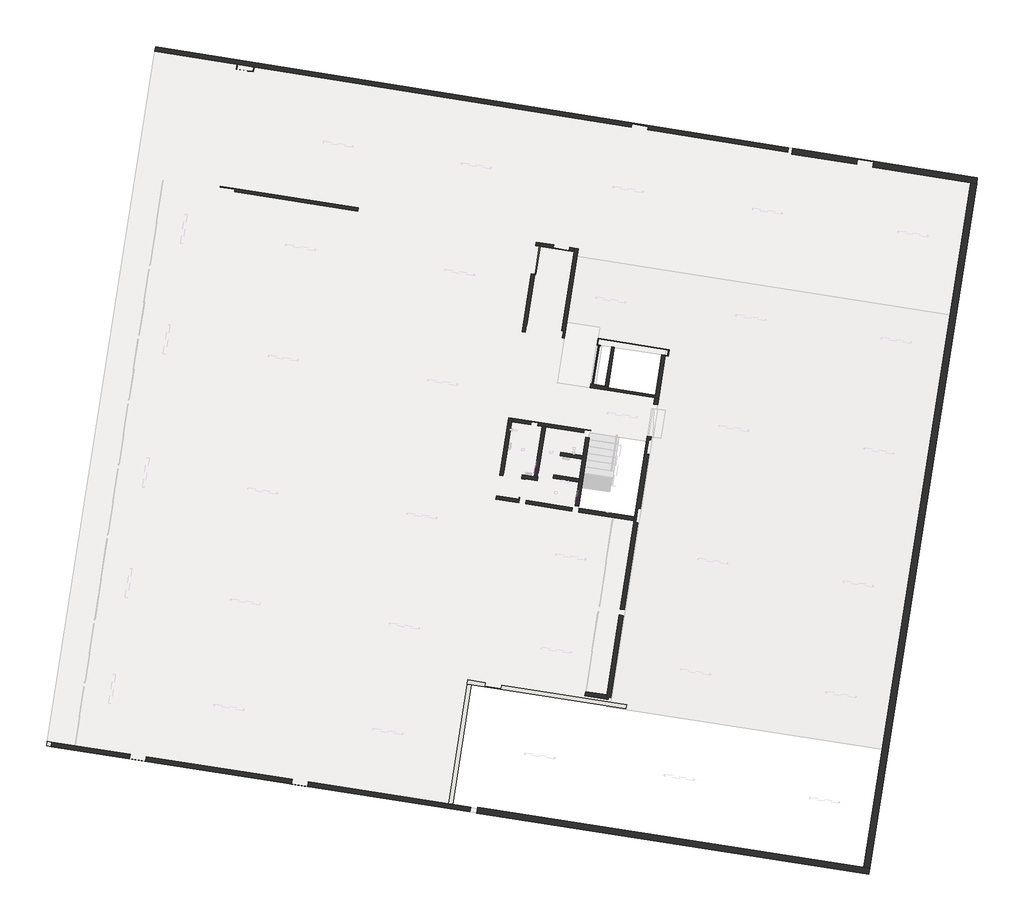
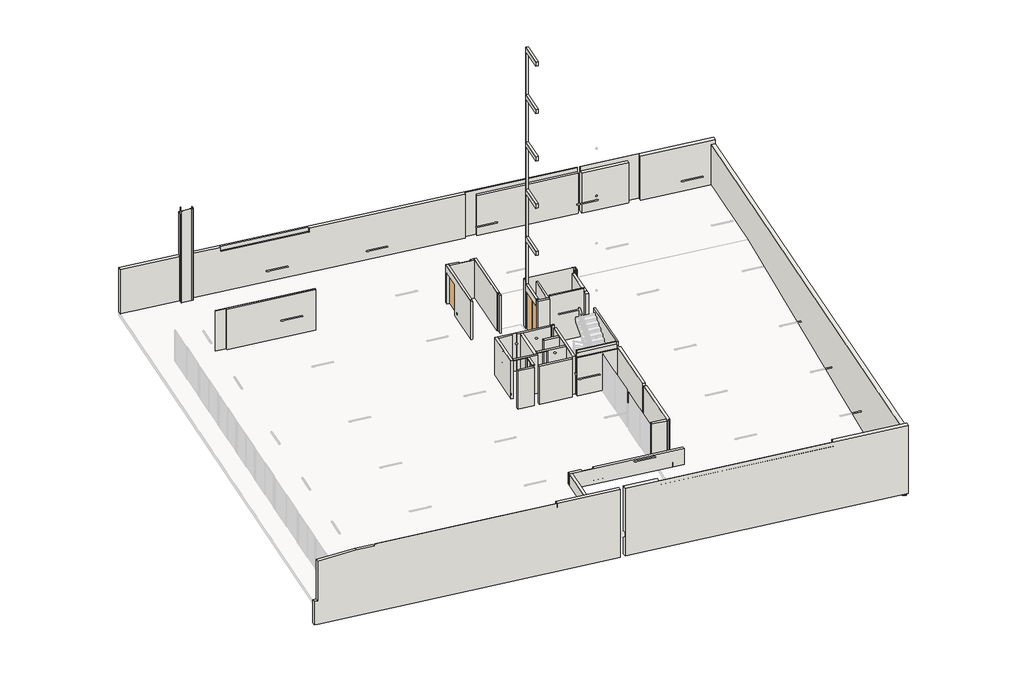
# One storey, part 1 of 3: 36 walls, 2 doors, 2 windows.
"""IFC4 building model written with IfcOpenShell, lengths in millimetres."""

from ifc_helpers import new_model, si_unit, frame, origin, place, context, project, spatial, polyline, outline, extrude, faceted_brep, transform, mapped, element, save
from components import door_714fe449, door_ddb746d0, window_199c4525

model = new_model("IFC4")

# Units and contexts
model_context = context("Model", 3, world=origin())
ifc_project = project(units=[si_unit("LENGTHUNIT", "METRE", prefix="MILLI")], contexts=[model_context])

# Site, building, storey
site = spatial("IfcSite", under=ifc_project)
building = spatial("IfcBuilding", under=site)
storey = spatial("IfcBuildingStorey", under=building, Name="SÓTANO 1", Elevation=-3000.0)

# Doors
placement = place(None, origin())
door_shape = door_714fe449(model_context)
element("IfcDoor", 1, ObjectType="PUERTA INTERIOR CORREDIZA_ESTRIAS : PUERTA INTERIOR CORREDIZA_ESTRIAS", at=placement, inside=storey, context=model_context, shape_type="MappedRepresentation", body=[
    mapped(door_shape, transform((-35279.7420149, -58680.8132557, -3000.0), x_axis=(0.15400987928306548, 0.9880693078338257, 0.0), y_axis=(-0.9880693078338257, 0.15400987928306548, 0.0), z_axis=(0.0, 0.0, 1.0))),
])
door_2_shape = door_ddb746d0(model_context)
element("IfcDoor", 2, ObjectType="Puerta Metalica-lisa_doble : Puerta Metálica lisa_doble 2", at=placement, inside=storey, context=model_context, shape_type="MappedRepresentation", body=[
    mapped(door_2_shape, transform((-32707.7435792, -63120.056435, -3000.0), x_axis=(0.15400987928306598, 0.9880693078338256, 0.0), y_axis=(-0.9880693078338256, 0.15400987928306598, 0.0), z_axis=(0.0, 0.0, 1.0))),
])

# Walls
element("IfcWall", 3, ObjectType="Muro block 12cms_int_ductos", at=placement, inside=storey, context=model_context, shape_type="Brep", body=[
    faceted_brep([(-47921.8866639, -50605.4554258, -3000.0), (-47319.1328885, -50699.3549794, -3000.0), (-47319.1328885, -50699.3549794, 3200.0), (-47921.8866639, -50605.4554258, 3200.0), (-47903.4054785, -50486.8871084, -3000.0), (-47903.4054785, -50486.8871084, 2920.0), (-47903.4054785, -50486.8871084, 3200.0), (-47883.6300228, -50489.9678132, 3200.0), (-47883.6300228, -50489.9678132, 2920.0), (-47883.6300228, -50489.9678132, -3000.0), (-47900.5620639, -50598.6568466, -3000.0), (-47317.593612, -50689.4741582, -3000.0), (-47317.593612, -50689.4741582, 3200.0), (-47900.5620639, -50598.6568466, 3200.0)], [[[0, 1, 2, 3]], [[4, 5, 6, 7, 8, 9]], [[1, 0, 4, 9, 10, 11]], [[3, 2, 12, 13, 7, 6]], [[2, 1, 11, 12]], [[0, 3, 6, 5, 4]], [[10, 13, 12, 11]], [[13, 10, 9, 8, 7]]]),
])
element("IfcWall", 4, ObjectType="Muro block 12cms_int_ductos", at=placement, inside=storey, context=model_context, shape_type="Brep", body=[
    faceted_brep([(-47200.5630339, -50717.826297, -3000.0), (-47169.0881531, -50515.784834, -3000.0), (-47169.0881531, -50515.784834, 0.0), (-47169.6887226, -50519.6399697, 0.0), (-47169.6887226, -50519.6399697, 3200.0), (-47200.5630339, -50717.826297, 3200.0), (-47319.1328885, -50699.3549794, -3000.0), (-47319.1328885, -50699.3549794, 3200.0), (-47317.593612, -50689.4741582, 3200.0), (-47317.593612, -50689.4741582, -3000.0), (-47208.9045786, -50706.4061993, -3000.0), (-47178.9631418, -50514.2081179, -3000.0), (-47179.5694157, -50518.0998709, 3200.0), (-47208.9045786, -50706.4061993, 3200.0), (-47178.9631418, -50514.2081179, 0.0), (-47179.5694157, -50518.0998709, 0.0), (-47179.5694157, -50518.0998709, 2920.0)], [[[0, 1, 2, 3, 4, 5]], [[6, 7, 8, 9]], [[1, 0, 6, 9, 10, 11]], [[5, 4, 12, 13, 8, 7]], [[0, 5, 7, 6]], [[2, 1, 11, 14]], [[4, 3, 15, 16, 12]], [[3, 2, 14, 15]], [[13, 10, 9, 8]], [[10, 13, 12, 16, 15, 14, 11]]]),
])
element("IfcWall", 5, ObjectType="Muro Contención - 20 cm", at=placement, inside=storey, context=model_context, shape_type="Brep", body=[
    faceted_brep([(-51375.8388988, -49844.1028827, 0.0), (-51375.8388988, -49844.1028827, -1805.8184233), (-51375.8388988, -49844.1028827, -2600.0), (-51375.8388988, -49844.1028827, -3000.0), (-51178.3391861, -49875.6371951, -3000.0), (-47889.968964, -50400.6834983, -3000.0), (-47870.2123516, -50403.8379899, -3000.0), (-31201.2432383, -53065.3329007, -3000.0), (-31201.2433158, -53065.3328884, 0.0), (-31220.9932045, -53062.1794703, 0.0), (-40305.9799974, -51611.6010962, 0.0), (-40325.7299686, -51608.447665, 0.0), (-40325.7299686, -51608.447665, -280.0), (-45529.8473745, -50777.5185357, -280.0), (-45529.8473745, -50777.5185357, 0.0), (-47870.2123516, -50403.8379899, 0.0), (-47889.968964, -50400.6834983, 0.0), (-24585.36884, -54121.6739331, -3000.0), (-24585.36884, -54121.6739331, -2600.0), (-24585.36884, -54121.6739331, -280.0), (-30509.9942441, -53175.7029943, -280.0), (-30509.9942441, -53175.7029943, -3000.0), (-24553.8347441, -53924.1755767, -3000.0), (-51345.0367114, -49646.4876641, -3000.0), (-51345.0367114, -49646.4876641, 0.0), (-24553.8347441, -53924.1755767, 0.0), (-24553.8347441, -53924.1755767, -2600.0), (-30487.5117328, -53031.4636799, -3000.0), (-31179.1602483, -52923.6567643, -3000.0), (-24558.8460788, -53955.5616157, 0.0), (-24558.8460788, -53955.5616157, -280.0), (-45516.0458481, -50688.9731464, 0.0), (-40308.9206175, -51500.6052071, 0.0), (-31179.1602844, -52923.6564812, 0.0), (-45516.0458481, -50688.9731464, -280.0), (-40308.9206175, -51500.6052071, -280.0), (-30487.5116906, -53031.4634089, -280.0), (-31179.1602771, -52923.6564823, -280.0)], [[[0, 1, 2, 3, 4, 5, 6, 7, 8, 9, 10, 11, 12, 13, 14, 15, 16]], [[17, 18, 19, 20, 21]], [[22, 23, 24, 25, 26]], [[23, 22, 17, 21, 27, 28, 7, 6, 5, 4, 3]], [[22, 26, 25, 29, 30, 19, 18, 17]], [[25, 24, 0, 16, 15, 14, 31, 32, 11, 10, 9, 8, 33, 29]], [[0, 24, 23, 3, 2, 1]], [[34, 13, 12, 35]], [[19, 30, 36, 20]], [[13, 34, 31, 14]], [[28, 27, 36, 30, 29, 33, 37]], [[36, 27, 21, 20]], [[34, 35, 32, 31]], [[32, 35, 12, 11]], [[28, 37, 33, 8, 7]]]),
])
element("IfcWall", 6, ObjectType="Muro Contención - 25", at=placement, inside=storey, context=model_context, shape_type="Brep", body=[
    faceted_brep([(-21111.3619643, -84430.1909695, -4580.0), (-21358.3792912, -84391.6884997, -4580.0), (-37705.9860161, -81843.5950428, -4580.0), (-37705.9860161, -81843.5950428, 0.0), (-35734.7877274, -82150.844755, 0.0), (-35734.7877274, -82150.844755, -280.0), (-25498.3895702, -83746.3871243, -280.0), (-25498.3895702, -83746.3871243, 0.0), (-21111.3619643, -84430.1909695, 0.0), (-21111.3619643, -84430.1909695, -280.0), (-37744.4884859, -82090.6123697, -4580.0), (-21149.8644341, -84677.2082965, -4580.0), (-21149.8644341, -84677.2082965, 0.0), (-37744.4884859, -82090.6123697, 0.0), (-35773.1919026, -82397.2314604, -280.0), (-25536.7937442, -83992.7738299, -280.0), (-25536.7937442, -83992.7738299, 0.0), (-35773.1919026, -82397.2314604, 0.0)], [[[0, 1, 2, 3, 4, 5, 6, 7, 8, 9]], [[10, 11, 12, 13]], [[14, 15, 6, 5]], [[15, 16, 7, 6]], [[15, 14, 17, 16]], [[17, 14, 5, 4]], [[2, 1, 0, 11, 10]], [[3, 2, 10, 13]], [[13, 12, 8, 7, 16, 17, 4, 3]], [[0, 9, 8, 12, 11]]]),
])
element("IfcWall", 7, ObjectType="Muro Contención - 25", at=placement, inside=storey, context=model_context, shape_type="Brep", body=[
    faceted_brep([(-21358.3792912, -84391.6884997, -280.0), (-16840.8396806, -55408.857937, -280.0), (-16840.8396806, -55408.857937, -3000.0), (-17711.4100545, -60994.1091615, -3000.0), (-20580.5431676, -79401.3852551, -4580.0), (-21358.3792912, -84391.6884997, -4580.0), (-16593.9650398, -55448.2758275, -280.0), (-21111.3619643, -84430.1909695, -280.0), (-21111.3619643, -84430.1909695, -4580.0), (-20333.5258406, -79439.8877249, -4580.0), (-17464.3927276, -61032.6116313, -3000.0), (-16593.9650398, -55448.2758275, -3000.0)], [[[0, 1, 2, 3, 4, 5]], [[6, 7, 8, 9, 10, 11]], [[1, 0, 7, 6]], [[7, 0, 5, 8]], [[1, 6, 11, 2]], [[5, 4, 9, 8]], [[3, 2, 11, 10]], [[4, 3, 10, 9]]]),
    faceted_brep([(-20580.5431676, -79401.3852551, -4840.9334221), (-21358.3792912, -84391.6884997, -4840.9334221), (-21358.3792912, -84391.6884997, -4840.0), (-20580.5431676, -79401.3852551, -4840.0), (-21111.3619643, -84430.1909695, -4840.9334221), (-20333.5258406, -79439.8877249, -4840.9334221), (-20333.5258406, -79439.8877249, -4840.0), (-21111.3619643, -84430.1909695, -4840.0)], [[[0, 1, 2, 3]], [[4, 5, 6, 7]], [[1, 4, 7, 2]], [[3, 2, 7, 6]], [[4, 1, 0, 5]], [[5, 0, 3, 6]]]),
])
element("IfcWall", 8, ObjectType="Muro block 16cms_ext ductos", at=placement, inside=storey, context=model_context, shape_type="Brep", body=[
    faceted_brep([(-30202.3069086, -64512.5316273, -3000.0), (-30202.3069086, -64512.5316273, 0.0), (-30194.2444914, -64460.806199, 0.0), (-29918.9030437, -62694.3193025, 0.0), (-29918.9030437, -62694.3193025, -3000.0), (-30186.1820742, -64409.0807708, -3000.0), (-30044.2158194, -64537.173208, 0.0), (-30044.2158194, -64537.173208, -3000.0), (-29763.8921521, -62738.7222697, -3000.0), (-29760.8119544, -62718.9608832, -3000.0), (-29760.8119544, -62718.9608832, 0.0)], [[[0, 1, 2, 3, 4, 5]], [[6, 7, 8, 9, 10]], [[7, 0, 5, 4, 9, 8]], [[1, 6, 10, 3, 2]], [[4, 3, 10, 9]], [[6, 1, 0, 7]]]),
])
element("IfcWall", 9, ObjectType="Muro block 16cms_ext ductos", at=placement, inside=storey, context=model_context, shape_type="Brep", body=[
    faceted_brep([(-32939.2589043, -64085.9242594, -3000.0), (-32326.6559522, -64181.4103816, -3000.0), (-32217.9683283, -64198.3514683, -3000.0), (-32217.9683283, -64198.3514683, 0.0), (-32939.2589043, -64085.9242594, 0.0), (-32914.6173236, -63927.8331701, -3000.0), (-32914.6173236, -63927.8331701, 0.0), (-32302.0143715, -64023.3192924, 0.0), (-32193.3267476, -64040.2603791, 0.0), (-32193.3267476, -64040.2603791, -3000.0), (-32302.0143715, -64023.3192924, -3000.0), (-32201.843494, -64094.9006121, -3000.0)], [[[0, 1, 2, 3, 4]], [[5, 6, 7, 8, 9, 10]], [[2, 1, 0, 5, 10, 9, 11]], [[4, 3, 8, 7, 6]], [[0, 4, 6, 5]], [[2, 11, 9, 8, 3]]]),
])
element("IfcWall", 10, ObjectType="Muro block 11cms_int_ductos doble", at=placement, inside=storey, context=model_context, shape_type="Brep", body=[
    faceted_brep([(-32193.3267476, -64040.2603791, 0.0), (-32193.3267476, -64040.2603791, -3000.0), (-31934.5644636, -62380.1391446, -3000.0), (-31934.5644636, -62380.1391446, 0.0), (-32302.0143715, -64023.3192924, -3000.0), (-32302.0143715, -64023.3192924, 0.0), (-32043.2520874, -62363.1980579, 0.0), (-32043.2520874, -62363.1980579, -3000.0), (-32247.6705596, -64031.7898357, -3000.0)], [[[0, 1, 2, 3]], [[4, 5, 6, 7]], [[2, 1, 8, 4, 7]], [[3, 2, 7, 6]], [[0, 3, 6, 5]], [[0, 5, 4, 8, 1]]]),
])
element("IfcWall", 11, ObjectType="TABLAROCA - 1 CAPA 1/2\"", at=placement, inside=storey, context=model_context, shape_type="Brep", body=[
    faceted_brep([(-32217.9683284, -64198.3514686, 200.0), (-32217.9683284, -64198.3514686, 0.0), (-32217.9683284, -64198.3514686, -3000.0), (-30222.0682948, -64509.4514297, -3000.0), (-30202.3069086, -64512.5316273, -3000.0), (-30202.3069086, -64512.5316273, 0.0), (-30222.0682948, -64509.4514297, 0.0), (-30222.0682948, -64509.4514297, 200.0), (-32201.843494, -64094.9006121, -3000.0), (-32201.843494, -64094.9006121, 200.0), (-30186.1820742, -64409.0807708, 200.0), (-30186.1820742, -64409.0807708, -3000.0), (-30194.2444914, -64460.806199, -3000.0), (-30214.0058776, -64457.7260015, 200.0), (-30194.2444914, -64460.806199, 200.0), (-30194.2444914, -64460.806199, 0.0), (-30214.0058776, -64457.7260015, 0.0)], [[[0, 1, 2, 3, 4, 5, 6, 7]], [[8, 9, 10, 11]], [[4, 3, 2, 8, 11, 12]], [[0, 7, 13, 14, 10, 9]], [[15, 16, 6, 5]], [[7, 6, 16, 13]], [[16, 15, 14, 13]], [[14, 15, 5, 4, 12, 11, 10]], [[0, 9, 8, 2, 1]]]),
])
element("IfcWall", 12, ObjectType="Muro block 13cms_ext_ductos", at=placement, inside=storey, context=model_context, shape_type="Brep", body=[
    faceted_brep([(-29719.2293095, -62452.1821667, -3000.0), (-29738.9906924, -62449.1019696, -3000.0), (-32485.8233633, -62020.954506, -3000.0), (-32485.8233633, -62020.954506, 200.0), (-29719.2293095, -62452.1821667, 200.0), (-29722.3095071, -62471.9435527, -3000.0), (-32488.9035608, -62040.715892, -3000.0), (-32488.9035608, -62040.715892, 200.0), (-29722.3095071, -62471.9435527, 200.0)], [[[0, 1, 2, 3, 4]], [[2, 1, 0, 5, 6]], [[4, 3, 7, 8]], [[6, 5, 8, 7]], [[0, 4, 8, 5]], [[3, 2, 6, 7]]]),
])
element("IfcWall", 13, ObjectType="Muro block 13cms_ext_ductos", at=placement, inside=storey, context=model_context, shape_type="Brep", body=[
    faceted_brep([(-32614.2723734, -62000.9332216, -3000.0), (-32658.9352374, -62287.4733218, -3000.0), (-32658.9352374, -62287.4733218, 200.0), (-32634.2936572, -62129.3822317, 200.0), (-32614.2723734, -62000.9332216, 200.0), (-32530.4862273, -62307.4946056, 200.0), (-32530.4862273, -62307.4946056, -3000.0), (-32527.4060297, -62287.7332191, -3000.0), (-32527.4060297, -62287.7332191, 200.0), (-32485.8233633, -62020.954506, -3000.0), (-32485.8233633, -62020.954506, 0.0), (-32485.8233633, -62020.954506, 200.0), (-32488.9035608, -62040.715892, 200.0), (-32488.9035608, -62040.715892, 0.0), (-32488.9035608, -62040.715892, -3000.0), (-32597.5911868, -62023.7748049, -3000.0), (-32636.0936566, -62270.7921319, -3000.0), (-32636.0936566, -62270.7921319, 200.0), (-32597.5911868, -62023.7748049, 200.0)], [[[0, 1, 2, 3, 4]], [[5, 6, 7, 8]], [[9, 10, 11, 12, 13, 14]], [[1, 0, 9, 14, 15, 16, 7, 6]], [[2, 1, 6, 5]], [[4, 3, 2, 5, 8, 17, 18, 12, 11]], [[18, 15, 14, 13, 12]], [[15, 18, 17, 16]], [[9, 0, 4, 11, 10]], [[16, 17, 8, 7]]]),
])
element("IfcWall", 14, ObjectType="Muro block 13cms_ext_ductos", at=placement, inside=storey, context=model_context, shape_type="Brep", body=[
    faceted_brep([(-29719.2293095, -62452.1821667, -3000.0), (-29722.3095071, -62471.9435527, -3000.0), (-29722.3095071, -62471.9435527, 200.0), (-29719.2293095, -62452.1821667, 200.0), (-29760.8119779, -62718.9608795, -3000.0), (-29763.8921756, -62738.722266, -3000.0), (-29763.8921756, -62738.722266, 0.0), (-29763.8921756, -62738.722266, 200.0), (-29760.8119779, -62718.9608795, 200.0), (-29760.8119779, -62718.9608795, 0.0), (-29635.4431657, -62758.7435508, -3000.0), (-29590.7802995, -62472.203451, -3000.0), (-29590.7802995, -62472.203451, 200.0), (-29635.4431657, -62758.7435508, 200.0), (-29671.8857331, -62732.8217697, -3000.0), (-29633.3832633, -62485.8044428, -3000.0), (-29610.5416824, -62469.1232539, -3000.0), (-29633.3832633, -62485.8044428, 200.0), (-29671.8857331, -62732.8217697, 200.0)], [[[0, 1, 2, 3]], [[4, 5, 6, 7, 8, 9]], [[10, 11, 12, 13]], [[11, 10, 5, 4, 14, 15, 1, 0, 16]], [[10, 13, 7, 6, 5]], [[13, 12, 3, 2, 17, 18, 8, 7]], [[2, 1, 15, 17]], [[15, 14, 18, 17]], [[18, 14, 4, 9, 8]], [[11, 16, 0, 3, 12]]]),
])
element("IfcWall", 15, ObjectType="Muro block 15cms_ext/ext (tabique pasta dos lados)", at=placement, inside=storey, context=model_context, shape_type="Brep", body=[
    faceted_brep([(-42756.0629951, -56462.9250388, -3000.0), (-48606.7177692, -55550.9863434, -3000.0), (-48606.7177692, -55550.9863434, -280.0), (-46329.2180147, -55905.9791152, -280.0), (-42756.0629951, -56462.9250388, -280.0), (-42779.164477, -56611.1354349, -3000.0), (-42779.164477, -56611.1354349, -280.0), (-48002.3953628, -55796.9929939, -280.0), (-48002.3953628, -55796.9929939, -3000.0), (-47986.2545745, -55693.4397789, -3000.0), (-48613.6784627, -55595.6435282, -3000.0), (-48613.6784627, -55595.6435282, -280.0), (-48609.7979668, -55570.7477297, -280.0), (-47986.2545745, -55693.4397789, -280.0), (-42759.1431928, -56482.6864253, -280.0), (-46332.2982123, -55925.7405015, -280.0)], [[[0, 1, 2, 3, 4]], [[5, 6, 7, 8]], [[1, 0, 5, 8, 9, 10]], [[2, 1, 10, 11, 12]], [[13, 9, 8, 7]], [[9, 13, 11, 10]], [[0, 4, 14, 6, 5]], [[4, 3, 2, 12, 15, 14]], [[6, 14, 15, 12, 11, 13, 7]]]),
])
element("IfcWall", 16, ObjectType="Muro block 15cms_ext/baño (tabique con cerámica)", at=placement, inside=storey, context=model_context, shape_type="Brep", body=[
    faceted_brep([(-36395.982191, -65355.2075409, -3000.0), (-36774.5053699, -67783.6695142, -3000.0), (-36774.5053699, -67783.6695142, -430.0), (-36395.982191, -65355.2075409, -430.0), (-36247.7717948, -65378.3090227, -3000.0), (-36247.7717948, -65378.3090227, -430.0), (-36270.8732767, -65526.5194189, -430.0), (-36603.1934918, -67658.5605999, -430.0), (-36626.2949737, -67806.770996, -430.0), (-36626.2949737, -67806.770996, -450.0), (-36603.1934918, -67658.5605999, -450.0), (-36603.1934918, -67658.5605999, -3000.0), (-36270.8732767, -65526.5194189, -3000.0), (-36616.9974412, -67656.408985, -3000.0), (-36640.0989231, -67804.6193812, -3000.0), (-36640.0989231, -67804.6193812, -450.0), (-36616.9974412, -67656.408985, -450.0)], [[[0, 1, 2, 3]], [[4, 5, 6, 7, 8, 9, 10, 11, 12]], [[1, 0, 4, 12, 11, 13, 14]], [[2, 1, 14, 15, 9, 8]], [[0, 3, 5, 4]], [[16, 13, 11, 10]], [[13, 16, 15, 14]], [[15, 16, 10, 9]], [[3, 2, 8, 7, 6, 5]]]),
])
element("IfcWall", 17, ObjectType="Muro block 15cms_ext/baño (tabique con cerámica)", at=placement, inside=storey, context=model_context, shape_type="Brep", body=[
    faceted_brep([(-35849.6434769, -67927.8272846, -3000.0), (-35835.8395274, -67929.9788995, -3000.0), (-35687.6291313, -67953.0803814, -3000.0), (-35193.5944691, -68030.0853223, -3000.0), (-35193.5944691, -68030.0853223, -430.0), (-35687.6291313, -67953.0803814, -430.0), (-35835.8395274, -67929.9788995, -430.0), (-36626.2949737, -67806.770996, -430.0), (-36626.2949737, -67806.770996, -450.0), (-35849.6434769, -67927.8272846, -450.0), (-35170.4929872, -67881.8749261, -3000.0), (-35318.7033833, -67858.7734442, -3000.0), (-35826.541995, -67779.6168885, -3000.0), (-35826.541995, -67779.6168885, -450.0), (-36603.1934918, -67658.5605999, -450.0), (-36603.1934918, -67658.5605999, -430.0), (-35318.7033833, -67858.7734442, -430.0), (-35170.4929872, -67881.8749261, -430.0)], [[[0, 1, 2, 3, 4, 5, 6, 7, 8, 9]], [[10, 11, 12, 13, 14, 15, 16, 17]], [[3, 2, 1, 0, 12, 11, 10]], [[8, 7, 15, 14]], [[9, 8, 14, 13]], [[0, 9, 13, 12]], [[7, 6, 5, 4, 17, 16, 15]], [[4, 3, 10, 17]]]),
])
element("IfcWall", 18, ObjectType="Muro block 15cms_ext/baño (tabique con cerámica)", at=placement, inside=storey, context=model_context, shape_type="Brep", body=[
    faceted_brep([(-32927.8589039, -65895.7822197, -3000.0), (-32927.8589039, -65895.7822197, -430.0), (-32930.9391015, -65915.5436059, -430.0), (-32930.9391015, -65915.5436059, -3000.0), (-33076.0693001, -65872.6807378, -430.0), (-33076.0693001, -65872.6807378, -3000.0), (-33079.1494977, -65892.442124, -3000.0), (-33079.1494977, -65892.442124, -430.0)], [[[0, 1, 2, 3]], [[4, 5, 6, 7]], [[5, 0, 3, 6]], [[1, 0, 5, 4]], [[1, 4, 7, 2]], [[3, 2, 7, 6]]]),
    faceted_brep([(-33429.5899863, -69114.6996395, -430.0), (-33429.5899863, -69114.6996395, -3000.0), (-32977.1420653, -66211.9643982, -3000.0), (-32977.1420653, -66211.9643982, -430.0), (-33577.8003824, -69091.5981576, -3000.0), (-33577.8003824, -69091.5981576, -430.0), (-33422.5915285, -68095.8366805, -430.0), (-33399.4900466, -67947.6262843, -430.0), (-33268.5816492, -67107.7673726, -430.0), (-33245.4801673, -66959.5569764, -430.0), (-33125.3524615, -66188.8629163, -430.0), (-33125.3524615, -66188.8629163, -3000.0), (-33245.4801673, -66959.5569764, -3000.0), (-33268.5816492, -67107.7673726, -3000.0), (-33399.4900466, -67947.6262843, -3000.0), (-33422.5915285, -68095.8366805, -3000.0)], [[[0, 1, 2, 3]], [[4, 5, 6, 7, 8, 9, 10, 11, 12, 13, 14, 15]], [[1, 4, 15, 14, 13, 12, 11, 2]], [[5, 0, 3, 10, 9, 8, 7, 6]], [[1, 0, 5, 4]], [[3, 2, 11, 10]]]),
])
element("IfcWall", 19, ObjectType="Muro block 15cms_ext/baño (tabique con cerámica)", at=placement, inside=storey, context=model_context, shape_type="Brep", body=[
    faceted_brep([(-33076.0693001, -65872.6807378, -3000.0), (-36247.7717948, -65378.3090227, -3000.0), (-36247.7717948, -65378.3090227, -430.0), (-33076.0693001, -65872.6807378, -430.0), (-36270.8732767, -65526.5194189, -430.0), (-36270.8732767, -65526.5194189, -3000.0), (-35455.7162898, -65653.5775394, -3000.0), (-35455.7162898, -65653.5775394, -430.0), (-33217.7390703, -66002.409953, -3000.0), (-33217.7390703, -66002.409953, -430.0), (-34838.1727721, -65749.8337452, -430.0), (-34986.3831682, -65726.7322633, -430.0), (-35159.2954974, -65699.7805032, -430.0), (-35159.2954974, -65699.7805032, -3000.0), (-34986.3831682, -65726.7322633, -3000.0), (-34838.1727721, -65749.8337452, -3000.0), (-33079.1494977, -65892.442124, -3000.0), (-33197.717786, -65873.9609429, -3000.0), (-35139.2742131, -65571.3314932, -3000.0), (-35435.6950055, -65525.1285294, -3000.0), (-33079.1494977, -65892.442124, -430.0), (-35435.6950055, -65525.1285294, -430.0), (-35139.2742131, -65571.3314932, -430.0), (-33197.717786, -65873.9609429, -430.0)], [[[0, 1, 2, 3]], [[4, 5, 6, 7]], [[8, 9, 10, 11, 12, 13, 14, 15]], [[1, 0, 16, 17, 8, 15, 14, 13, 18, 19, 6, 5]], [[0, 3, 20, 16]], [[2, 1, 5, 4]], [[3, 2, 4, 7, 21, 22, 12, 11, 10, 9, 23, 20]], [[17, 23, 9, 8]], [[23, 17, 16, 20]], [[19, 21, 7, 6]], [[21, 19, 18, 22]], [[22, 18, 13, 12]]]),
])
element("IfcWall", 20, ObjectType="Muro block 15cms_baño/baño (tabique con cerámica)", at=placement, inside=storey, context=model_context, shape_type="Brep", body=[
    faceted_brep([(-34986.3831682, -65726.7322633, -3000.0), (-35318.7033833, -67858.7734442, -3000.0), (-35318.7033833, -67858.7734442, -430.0), (-34986.3831682, -65726.7322633, -430.0), (-34838.1727721, -65749.8337452, -3000.0), (-34838.1727721, -65749.8337452, -430.0), (-35138.4920367, -67676.5688954, -430.0), (-35161.5935186, -67824.7792916, -430.0), (-35170.4929872, -67881.8749261, -430.0), (-35170.4929872, -67881.8749261, -3000.0), (-35161.5935186, -67824.7792916, -3000.0), (-35161.5935186, -67824.7792916, -450.0), (-35138.4920367, -67676.5688954, -450.0), (-35138.4920367, -67676.5688954, -3000.0), (-35175.5446357, -67670.793525, -3000.0), (-35198.6461176, -67819.0039212, -3000.0), (-35175.5446357, -67670.793525, -450.0), (-35198.6461176, -67819.0039212, -450.0)], [[[0, 1, 2, 3]], [[4, 5, 6, 7, 8, 9, 10, 11, 12, 13]], [[1, 0, 4, 13, 14, 15, 10, 9]], [[0, 3, 5, 4]], [[16, 14, 13, 12]], [[15, 17, 11, 10]], [[14, 16, 17, 15]], [[17, 16, 12, 11]], [[3, 2, 8, 7, 6, 5]], [[2, 1, 9, 8]]]),
])
element("IfcWall", 21, ObjectType="Muro block 15cms_ext/baño (tabique con cerámica)", at=placement, inside=storey, context=model_context, shape_type="SweptSolid", body=[
    extrude(outline(polyline([(-35674.9857479, -69008.2546724), (-35651.8842651, -68860.0442763), (-33710.3278374, -69162.6737262), (-33733.4293193, -69310.8841223), (-35674.9857479, -69008.2546724)])), frame((0.0, 0.0, -3000.0), z_axis=(0.0, 0.0, 1.0), x_axis=(1.0, 0.0, 0.0)), (0.0, 0.0, 1.0), 2570.0),
])
element("IfcWall", 22, ObjectType="Muro block 15cms_ext/ext (tabique pasta dos lados)", at=placement, inside=storey, context=model_context, shape_type="Brep", body=[
    faceted_brep([(-36911.7204417, -68663.6742282, -3000.0), (-36911.7204417, -68663.6742282, -430.0), (-35973.0065976, -68809.9910956, -430.0), (-35948.3050575, -68813.8413125, -430.0), (-35948.3050575, -68813.8413125, -3000.0), (-35973.0065976, -68809.9910956, -3000.0), (-36934.8219236, -68811.8846244, -430.0), (-36934.8219236, -68811.8846244, -3000.0), (-35971.4065402, -68962.0517086, -3000.0), (-35971.4065402, -68962.0517086, -430.0)], [[[0, 1, 2, 3, 4, 5]], [[6, 7, 8, 9]], [[7, 0, 5, 4, 8]], [[1, 0, 7, 6]], [[4, 3, 9, 8]], [[1, 6, 9, 3, 2]]]),
])
element("IfcWall", 23, ObjectType="Muro block 15cms_baño/baño (tabique con cerámica)", at=placement, inside=storey, context=model_context, shape_type="SweptSolid", body=[
    extrude(outline(polyline([(-33268.5816492, -67107.7673726), (-34207.2474917, -66961.4579873), (-34184.1460098, -66813.2475911), (-33245.4801673, -66959.5569764), (-33268.5816492, -67107.7673726)])), frame((0.0, 0.0, -3000.0), z_axis=(0.0, 0.0, 1.0), x_axis=(1.0, 0.0, 0.0)), (0.0, 0.0, 1.0), 2570.0),
])
element("IfcWall", 24, ObjectType="Muro block 15cms_baño/baño (tabique con cerámica)", at=placement, inside=storey, context=model_context, shape_type="SweptSolid", body=[
    extrude(outline(polyline([(1612.8698933, 0.0), (1612.8698933, -2570.0), (-147.1301151, -2570.0), (-147.1301151, -2550.0), (515.3698849, -2550.0), (515.3698849, 0.0), (1612.8698933, 0.0)])), frame((-35016.2187676, -67847.4387829, -3000.0), z_axis=(0.1540098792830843, 0.9880693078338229, 0.0), x_axis=(0.9880693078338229, -0.1540098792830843, 0.0)), (0.0, 0.0, 1.0), 150.0),
])
element("IfcWall", 25, ObjectType="Muro block 15cms_ext/baño (tabique con cerámica)", at=placement, inside=storey, context=model_context, shape_type="Brep", body=[
    faceted_brep([(-35689.7807461, -67966.8843308, -450.0), (-35689.7807461, -67966.8843308, -3000.0), (-35687.6291313, -67953.0803814, -3000.0), (-35687.6291313, -67953.0803814, -430.0), (-35810.837034, -68743.535823, -430.0), (-35810.837034, -68743.535823, -450.0), (-35961.1990457, -68734.2382952, -3000.0), (-35973.0065976, -68809.9910956, -3000.0), (-35973.0065976, -68809.9910956, -430.0), (-35835.8395274, -67929.9788995, -430.0), (-35835.8395274, -67929.9788995, -3000.0), (-35837.9911423, -67943.7828489, -3000.0), (-35837.9911423, -67943.7828489, -450.0), (-35961.1990457, -68734.2382952, -450.0), (-35936.4975051, -68738.0885122, -3000.0), (-35948.3050575, -68813.8413125, -3000.0), (-35936.4975051, -68738.0885122, -450.0), (-35934.3458893, -68724.2845574, -450.0), (-35948.3050575, -68813.8413125, -430.0), (-35934.3458893, -68724.2845574, -430.0)], [[[0, 1, 2, 3, 4, 5]], [[6, 7, 8, 9, 10, 11, 12, 13]], [[7, 6, 14, 15]], [[1, 11, 10, 2]], [[6, 13, 16, 14]], [[12, 0, 5, 17, 16, 13]], [[0, 12, 11, 1]], [[3, 2, 10, 9]], [[8, 7, 15, 18]], [[3, 9, 8, 18, 19, 4]], [[17, 19, 18, 15, 14, 16]], [[19, 17, 5, 4]]]),
])
element("IfcWall", 26, ObjectType="Muro block 13cms_ext_ductos", at=placement, inside=storey, context=model_context, shape_type="Brep", body=[
    faceted_brep([(-47889.968964, -50400.6834983, -3000.0), (-47903.4054785, -50486.8871084, -3000.0), (-47903.4054785, -50486.8871084, 2920.0), (-47863.2647239, -50229.3591625, 2920.0), (-47863.2647239, -50229.3591625, 0.0), (-47889.968964, -50400.6834983, 0.0), (-47737.8959114, -50269.141833, 3200.0), (-47737.8959114, -50269.141833, 2920.0), (-47737.9924313, -50269.7610678, 2920.0), (-47737.9924313, -50269.7610678, 0.0), (-47734.8157139, -50249.3804468, 0.0), (-47734.8157139, -50249.3804468, 3200.0), (-47870.2123516, -50403.8379899, -3000.0), (-47883.6300228, -50489.9678132, -3000.0), (-47779.2788316, -50242.4500024, 3200.0), (-47780.8189304, -50252.3306955, 3200.0), (-47782.3590292, -50262.2113886, 3200.0), (-47883.6300228, -50489.9678132, 2920.0), (-47782.3590292, -50262.2113886, 2920.0), (-47779.2788316, -50242.4500024, 2920.0), (-47846.6873876, -50252.828104, 2920.0), (-47846.6873876, -50252.828104, 0.0), (-47870.2123516, -50403.8379899, 0.0)], [[[0, 1, 2, 3, 4, 5]], [[6, 7, 8, 9, 10, 11]], [[1, 0, 12, 13]], [[11, 14, 15, 16, 6]], [[2, 1, 13, 17]], [[18, 19, 3, 2, 17, 20, 8, 7]], [[16, 18, 7, 6]], [[19, 18, 16, 15, 14]], [[5, 4, 10, 9, 21, 22]], [[0, 5, 22, 12]], [[14, 11, 10, 4, 3, 19]], [[20, 21, 9, 8]], [[21, 20, 17, 13, 12, 22]]]),
])
element("IfcWall", 27, ObjectType="Muro block 15cms_ext/ext (tabique pasta dos lados)", at=placement, inside=storey, context=model_context, shape_type="Brep", body=[
    faceted_brep([(-35090.1294074, -57951.3120158, -3000.0), (-35090.1294074, -57951.3120158, -430.0), (-35113.2308893, -58099.522412, -430.0), (-35633.7843241, -61439.1969472, -430.0), (-35633.7843241, -61439.1969472, -3000.0), (-35298.0427444, -59285.2055814, -3000.0), (-35298.0427444, -59285.2055814, -900.0), (-35113.2308893, -58099.522412, -900.0), (-35113.2308893, -58099.522412, -3000.0), (-35828.197684, -61712.5162576, -3000.0), (-35828.197684, -61712.5162576, -430.0), (-35798.9357658, -61524.782825, -430.0), (-35238.3398036, -57928.2105339, -430.0), (-35238.3398036, -57928.2105339, -3000.0), (-35261.4412855, -58076.4209301, -3000.0), (-35261.4412855, -58076.4209301, -900.0), (-35446.2531406, -59262.1040995, -900.0), (-35446.2531406, -59262.1040995, -3000.0), (-35658.4860502, -61435.3467012, -3000.0), (-35704.689014, -61731.7674935, -3000.0), (-35704.689014, -61731.7674935, -430.0), (-35658.4860502, -61435.3467012, -430.0), (-35675.4270957, -61544.0340609, -430.0)], [[[0, 1, 2, 3, 4, 5, 6, 7, 8]], [[9, 10, 11, 12, 13, 14, 15, 16, 17]], [[13, 0, 8, 14]], [[17, 5, 4, 18, 19, 9]], [[10, 9, 19, 20]], [[21, 18, 4, 3]], [[18, 21, 22, 20, 19]], [[1, 0, 13, 12]], [[7, 15, 14, 8]], [[15, 7, 6, 16]], [[16, 6, 5, 17]], [[1, 12, 11, 22, 21, 3, 2]], [[11, 10, 20, 22]]]),
])
element("IfcWall", 28, ObjectType="Muro block 15cms_ext/ext (tabique pasta dos lados)", at=placement, inside=storey, context=model_context, shape_type="Brep", body=[
    faceted_brep([(-34049.6728984, -61989.7340453, -3000.0), (-33459.8150179, -58205.4283215, -3000.0), (-33459.8150179, -58205.4283215, -430.0), (-34020.4109801, -61802.0006124, -430.0), (-34049.6728984, -61989.7340453, -430.0), (-33608.0254141, -58182.3268396, -430.0), (-33608.0254141, -58182.3268396, -3000.0), (-33631.126896, -58330.5372358, -3000.0), (-34151.6803308, -61670.2117711, -3000.0), (-34151.6803308, -61670.2117711, -430.0), (-33631.126896, -58330.5372358, -430.0), (-34123.7781215, -61978.1833005, -3000.0), (-34077.5751577, -61681.7625082, -3000.0), (-34123.7781215, -61978.1833005, -430.0), (-34077.5751577, -61681.7625082, -430.0), (-34094.5162032, -61790.4498676, -430.0)], [[[0, 1, 2, 3, 4]], [[5, 6, 7, 8, 9, 10]], [[1, 0, 11, 12, 8, 7, 6]], [[0, 4, 13, 11]], [[14, 12, 11, 13, 15]], [[12, 14, 9, 8]], [[2, 1, 6, 5]], [[2, 5, 10, 9, 14, 15, 3]], [[4, 3, 15, 13]]]),
])
element("IfcWall", 29, ObjectType="Muro block 15cms_ext/ext (tabique pasta dos lados)", at=placement, inside=storey, context=model_context, shape_type="Brep", body=[
    faceted_brep([(-35113.2308893, -58099.522412, -3000.0), (-33631.126896, -58330.5372358, -3000.0), (-33631.126896, -58330.5372358, -430.0), (-35113.2308893, -58099.522412, -430.0), (-35113.2308893, -58099.522412, -900.0), (-35090.1294074, -57951.3120158, -3000.0), (-35090.1294074, -57951.3120158, -430.0), (-34497.2878149, -58043.7179446, -430.0), (-34497.2878149, -58043.7179446, -3000.0), (-33608.0254141, -58182.3268396, -430.0), (-33608.0254141, -58182.3268396, -3000.0), (-33805.6392994, -58151.5248601, -3000.0), (-33805.6392994, -58151.5248601, -430.0), (-34517.3090978, -58172.1669457, -3000.0), (-33825.6605823, -58279.9738612, -3000.0), (-33825.6605823, -58279.9738612, -430.0), (-34517.3090978, -58172.1669457, -430.0)], [[[0, 1, 2, 3, 4]], [[5, 6, 7, 8]], [[9, 10, 11, 12]], [[1, 0, 5, 8, 13, 14, 11, 10]], [[3, 2, 9, 12, 15, 16, 7, 6]], [[0, 4, 3, 6, 5]], [[2, 1, 10, 9]], [[15, 14, 13, 16]], [[14, 15, 12, 11]], [[16, 13, 8, 7]]]),
])
element("IfcWall", 30, ObjectType="Muro block 16cms_ext ductos", at=placement, inside=storey, context=model_context, shape_type="Brep", body=[
    faceted_brep([(-32500.8441478, -62312.1149022, 16000.0), (-32737.5632509, -63830.8153998, 16000.0), (-32737.5632509, -63830.8153998, 15720.0), (-32500.8698348, -62312.2796998, 15720.0), (-32500.8698348, -62312.2796998, 12800.0), (-32737.5632509, -63830.8153998, 12800.0), (-32737.5632509, -63830.8153998, 12520.0), (-32500.8698348, -62312.2796998, 12520.0), (-32500.8698348, -62312.2796998, 9600.0), (-32737.5632509, -63830.8153998, 9600.0), (-32737.5632509, -63830.8153998, 9320.0), (-32500.8698348, -62312.2796998, 9320.0), (-32500.8698348, -62312.2796998, 6400.0), (-32737.5632509, -63830.8153998, 6400.0), (-32737.5632509, -63830.8153998, 6120.0), (-32500.8698348, -62312.2796998, 6120.0), (-32500.8698348, -62312.2796998, 3200.0), (-32737.5632509, -63830.8153998, 3200.0), (-32737.5632509, -63830.8153998, 2920.0), (-32500.8698348, -62312.2796998, 2920.0), (-32500.8698348, -62312.2796998, 0.0), (-32737.5632509, -63830.8153998, 0.0), (-32737.5632509, -63830.8153998, -430.0), (-32500.8698348, -62312.2796998, -430.0), (-32500.8698348, -62312.2796998, -3000.0), (-32500.8441478, -62312.1149022, -3000.0), (-32895.6543401, -63806.1738191, 16000.0), (-32658.9352371, -62287.4733215, 16000.0), (-32658.9352371, -62287.4733215, 200.0), (-32658.9352371, -62287.4733215, -3000.0), (-32658.960924, -62287.6381191, -3000.0), (-32658.960924, -62287.6381191, -430.0), (-32895.6543401, -63806.1738191, -430.0), (-32895.6543401, -63806.1738191, 0.0), (-32658.960924, -62287.6381191, 0.0), (-32658.960924, -62287.6381191, 2920.0), (-32895.6543401, -63806.1738191, 2920.0), (-32895.6543401, -63806.1738191, 3200.0), (-32658.960924, -62287.6381191, 3200.0), (-32658.960924, -62287.6381191, 6120.0), (-32895.6543401, -63806.1738191, 6120.0), (-32895.6543401, -63806.1738191, 6400.0), (-32658.960924, -62287.6381191, 6400.0), (-32658.960924, -62287.6381191, 9320.0), (-32895.6543401, -63806.1738191, 9320.0), (-32895.6543401, -63806.1738191, 9600.0), (-32658.960924, -62287.6381191, 9600.0), (-32658.960924, -62287.6381191, 12520.0), (-32895.6543401, -63806.1738191, 12520.0), (-32895.6543401, -63806.1738191, 12800.0), (-32658.960924, -62287.6381191, 12800.0), (-32658.960924, -62287.6381191, 15720.0), (-32895.6543401, -63806.1738191, 15720.0), (-32530.4862273, -62307.4946058, -3000.0)], [[[0, 1, 2, 3, 4, 5, 6, 7, 8, 9, 10, 11, 12, 13, 14, 15, 16, 17, 18, 19, 20, 21, 22, 23, 24, 25]], [[26, 27, 28, 29, 30, 31, 32, 33, 34, 35, 36, 37, 38, 39, 40, 41, 42, 43, 44, 45, 46, 47, 48, 49, 50, 51, 52]], [[29, 53, 25, 24, 30]], [[1, 0, 27, 26]], [[1, 26, 52, 2]], [[40, 14, 13, 41]], [[17, 37, 36, 18]], [[44, 10, 9, 45]], [[48, 6, 5, 49]], [[21, 33, 32, 22]], [[25, 53, 29, 28, 27, 0]], [[38, 16, 15, 39]], [[39, 15, 14, 40]], [[16, 38, 37, 17]], [[42, 12, 11, 43]], [[43, 11, 10, 44]], [[12, 42, 41, 13]], [[46, 8, 7, 47]], [[47, 7, 6, 48]], [[8, 46, 45, 9]], [[50, 4, 3, 51]], [[51, 3, 2, 52]], [[4, 50, 49, 5]], [[34, 20, 19, 35]], [[35, 19, 18, 36]], [[20, 34, 33, 21]], [[23, 31, 30, 24]], [[31, 23, 22, 32]]]),
])
element("IfcWall", 31, ObjectType="Muro Contención - 25", at=placement, inside=storey, context=model_context, shape_type="Brep", body=[
    faceted_brep([(-16593.9650398, -55448.2758275, -3000.0), (-16593.9650398, -55448.2758275, -280.0), (-16593.9650398, -55448.2758275, 0.0), (-20978.4586721, -54748.2140895, 0.0), (-20978.4586721, -54748.2140895, -3000.0), (-16840.8396806, -55408.857937, -3000.0), (-24420.3486268, -54198.6556534, -280.0), (-24420.3486268, -54198.6556534, -3000.0), (-21669.7076663, -54637.843996, -3000.0), (-21669.7076663, -54637.843996, -280.0), (-16555.4623056, -55201.2568044, -3000.0), (-24380.931007, -53951.7827078, -3000.0), (-24380.931007, -53951.7827078, -2600.0), (-24380.931007, -53951.7827078, 0.0), (-16555.4623056, -55201.2568044, 0.0), (-20942.7621766, -54519.1988288, -3000.0), (-21634.4106926, -54411.3919165, -3000.0), (-24385.8400325, -53982.5279835, 0.0), (-20942.7621789, -54519.1988431, 0.0), (-24385.8400325, -53982.5279835, -280.0), (-21634.4106943, -54411.3919276, -280.0), (-20942.7621789, -54519.1988431, -280.0)], [[[0, 1, 2, 3, 4, 5]], [[6, 7, 8, 9]], [[10, 11, 12, 13, 14]], [[11, 10, 0, 5, 4, 15, 16, 8, 7]], [[14, 13, 17, 18, 3, 2]], [[13, 12, 11, 7, 6, 19, 17]], [[0, 10, 14, 2, 1]], [[19, 6, 9, 20]], [[17, 19, 20, 16, 15, 21, 18]], [[18, 21, 15, 4, 3]], [[16, 20, 9, 8]]]),
])
element("IfcWall", 32, ObjectType="Muro Contención - 20 cm", at=placement, inside=storey, context=model_context, shape_type="Brep", body=[
    faceted_brep([(-55731.1303391, -79084.6283593, -343.4063125), (-53479.3724174, -79435.6087642, -150.0), (-52421.0981281, -79600.5614596, -150.0), (-52421.0981531, -79600.5614557, -4580.0), (-55731.1303391, -79084.6283593, -4580.0), (-55928.7442006, -79053.8263835, -4580.0), (-55928.7442006, -79053.8263835, -3000.0), (-55731.1303391, -79084.6283593, -3000.0), (-38010.1073024, -81846.7955444, 0.0), (-38010.1073024, -81846.7955444, -4580.0), (-44872.2486421, -80777.1969333, -4580.0), (-44872.2486421, -80777.1969333, -280.0), (-41700.5461554, -81271.5686471, -280.0), (-41700.5461554, -81271.5686471, 0.0), (-51729.4496376, -79708.3683712, -4580.0), (-51729.4496376, -79708.3683712, -280.0), (-45563.8971576, -80669.3900178, -280.0), (-45563.8971576, -80669.3900178, -4580.0), (-38040.9092783, -82044.409406, 0.0), (-52407.4369851, -79805.1057657, 0.0), (-52407.4369851, -79805.1057657, -150.0), (-53510.1743932, -79633.2226258, -150.0), (-55761.9323149, -79282.2422209, -343.4063125), (-55761.9323149, -79282.2422209, -791.448469), (-55761.9323149, -79282.2422209, -3000.0), (-55959.5461765, -79251.4402451, -3000.0), (-55959.5461765, -79251.4402451, -4580.0), (-55761.9323149, -79282.2422209, -4580.0), (-38040.9092783, -82044.409406, -4580.0), (-41731.2498366, -81468.5518871, 0.0), (-44902.9523233, -80974.1801732, 0.0), (-44903.0145084, -80974.5791293, 0.0), (-45594.6630239, -80866.7722138, 0.0), (-45594.6008388, -80866.3732577, 0.0), (-52407.3386905, -79804.4751441, 0.0), (-52407.3386905, -79804.4751441, -150.0), (-52451.8018093, -79797.5446995, -150.0), (-52451.8022857, -79797.5475923, -4580.0), (-51760.1537702, -79905.3545078, -4580.0), (-45594.6630239, -80866.7722138, -4580.0), (-44903.0145084, -80974.5791293, -4580.0), (-41731.2498366, -81468.5518871, -280.0), (-44902.9523233, -80974.1801732, -280.0), (-51760.1533187, -79905.3516112, -280.0), (-45594.6008388, -80866.3732577, -280.0), (-52451.80181, -79797.5446994, -280.0)], [[[0, 1, 2, 3, 4, 5, 6, 7]], [[8, 9, 10, 11, 12, 13]], [[14, 15, 16, 17]], [[18, 19, 20, 21, 22, 23, 24, 25, 26, 27, 28]], [[19, 18, 8, 13, 29, 30, 31, 32, 33, 34]], [[21, 20, 35, 36, 2, 1]], [[1, 0, 22, 21]], [[28, 27, 26, 5, 4, 3, 37, 38, 14, 17, 39, 40, 10, 9]], [[20, 19, 34, 35]], [[9, 8, 18, 28]], [[7, 6, 25, 24]], [[6, 5, 26, 25]], [[7, 24, 23, 22, 0]], [[41, 12, 11, 42]], [[15, 43, 44, 16]], [[36, 35, 34, 33, 44, 43, 38, 37, 45]], [[29, 41, 42, 30]], [[2, 36, 45, 37, 3]], [[41, 29, 13, 12]], [[15, 14, 38, 43]], [[40, 31, 30, 42, 11, 10]], [[31, 40, 39, 32]], [[32, 39, 17, 16, 44, 33]]]),
])
element("IfcWall", 33, ObjectType="Muro block 18cms_ext/ext", at=placement, inside=storey, context=model_context, shape_type="Brep", body=[
    faceted_brep([(-32079.4002087, -77204.5633199, -3000.0), (-31538.7633927, -73736.0413847, -3000.0), (-31538.7633927, -73736.0413847, -280.0), (-32079.4002087, -77204.5633199, -280.0), (-31716.6158683, -73708.3196077, -3000.0), (-32243.3917935, -77087.9152949, -3000.0), (-32271.1135718, -77265.7677703, -3000.0), (-32271.1135718, -77265.7677703, -280.0), (-32243.3917935, -77087.9152949, -280.0), (-31716.6158683, -73708.3196077, -280.0), (-32168.3264678, -77190.7024275, -3000.0), (-32182.1873556, -77279.6286561, -3000.0), (-32168.3264678, -77190.7024275, -280.0), (-32182.1873556, -77279.6286561, -280.0)], [[[0, 1, 2, 3]], [[4, 5, 6, 7, 8, 9]], [[0, 10, 11, 6, 5, 4, 1]], [[10, 0, 3, 12]], [[11, 10, 12, 13]], [[6, 11, 13, 7]], [[1, 4, 9, 2]], [[3, 2, 9, 8, 7, 13, 12]]]),
    faceted_brep([(-30359.8849375, -66172.8017752, -3000.0), (-30359.8849375, -66172.8017752, -280.0), (-30379.8390964, -66300.8201342, -280.0), (-30379.8390964, -66300.8201342, -3000.0), (-31500.2609229, -73489.0240578, -280.0), (-31500.2609229, -73489.0240578, -3000.0), (-30925.0340122, -69798.585119, -3000.0), (-30925.0340122, -69798.585119, -280.0), (-30832.6280846, -69205.7435343, -280.0), (-30832.6280846, -69205.7435343, -3000.0), (-30472.245024, -66893.6617189, -3000.0), (-30472.245024, -66893.6617189, -280.0), (-30537.7374129, -66145.0799969, 0.0), (-30537.7374129, -66145.0799969, -3000.0), (-31067.5625101, -69544.2380214, -3000.0), (-31095.2842883, -69722.0904968, -3000.0), (-31678.1133985, -73461.3022807, -3000.0), (-31678.1133985, -73461.3022807, -280.0), (-31081.3251045, -69632.5336375, -280.0), (-31081.3251045, -69632.5336375, -150.0), (-31081.3251045, -69632.5336375, 0.0), (-31078.2449079, -69612.7722577, 0.0), (-31067.5625101, -69544.2380214, 0.0), (-30478.6460184, -66285.4191476, -3000.0), (-30571.051946, -66878.2607323, -3000.0), (-30931.4350067, -69190.3425477, -3000.0), (-31023.8409342, -69783.1841324, -3000.0), (-31002.2795511, -69644.8544292, 0.0), (-30458.6918595, -66157.4007887, 0.0), (-30458.6918595, -66157.4007887, -280.0), (-30478.6460184, -66285.4191476, -280.0), (-31002.2795511, -69644.8544292, -280.0), (-31023.8409342, -69783.1841324, -280.0), (-30931.4350067, -69190.3425477, -280.0), (-30571.051946, -66878.2607323, -280.0)], [[[0, 1, 2, 3]], [[4, 5, 6, 7]], [[8, 9, 10, 11]], [[12, 13, 14, 15, 16, 17, 18, 19, 20, 21, 22]], [[13, 0, 3, 23, 24, 10, 9, 25, 26, 6, 5, 16, 15, 14]], [[12, 22, 21, 20, 27, 28]], [[0, 13, 12, 28, 29, 1]], [[16, 5, 4, 17]], [[1, 29, 30, 2]], [[31, 18, 17, 4, 7, 32]], [[33, 8, 11, 34]], [[27, 31, 32, 26, 25, 33, 34, 24, 23, 30, 29, 28]], [[31, 27, 20, 19, 18]], [[33, 25, 9, 8]], [[26, 32, 7, 6]], [[30, 23, 3, 2]], [[24, 34, 11, 10]]]),
])
element("IfcWall", 34, ObjectType="Muro block 18cms_ext/ext", at=placement, inside=storey, context=model_context, shape_type="SweptSolid", body=[
    extrude(outline(polyline([(-32271.1135718, -77265.7677703), (-33170.2566646, -77125.6187766), (-33142.5348864, -76947.7663012), (-32243.3917935, -77087.9152949), (-32271.1135718, -77265.7677703)])), frame((0.0, 0.0, -3000.0), z_axis=(0.0, 0.0, 1.0), x_axis=(1.0, 0.0, 0.0)), (0.0, 0.0, 1.0), 2720.0),
])
element("IfcWall", 35, ObjectType="Muro block 18cms_ext/ext", at=placement, inside=storey, context=model_context, shape_type="SweptSolid", body=[
    extrude(outline(polyline([(-37975.8113425, -76659.5518098), (-38765.980319, -81728.9779874), (-38943.8327944, -81701.2562091), (-38153.6638179, -76631.8300316), (-37975.8113425, -76659.5518098)])), frame((0.0, 0.0, -3000.0), z_axis=(0.0, 0.0, 1.0), x_axis=(1.0, 0.0, 0.0)), (0.0, 0.0, 1.0), 800.0),
])
element("IfcWall", 36, ObjectType="Muro block 18cms_ext/ext", at=placement, inside=storey, context=model_context, shape_type="Brep", body=[
    faceted_brep([(-31434.7925206, -77679.0972113, -3260.0), (-31434.7925206, -77679.0972113, -2200.0), (-37975.8113425, -76659.5518098, -2200.0), (-38153.6638179, -76631.8300316, -2200.0), (-38153.6638179, -76631.8300316, -3000.0), (-37975.8113425, -76659.5518098, -3000.0), (-37975.8113425, -76659.5518098, -3260.0), (-31407.0707423, -77501.2447359, -2200.0), (-31407.0707423, -77501.2447359, -3260.0), (-32069.0771495, -77398.0581213, -3260.0), (-32069.0771495, -77398.0581213, -3000.0), (-36693.2415355, -76677.2918823, -3000.0), (-36693.2415355, -76677.2918823, -2200.0), (-38125.9420397, -76453.9775562, -2200.0), (-37384.890051, -76569.4849668, -2200.0), (-37384.890051, -76569.4849668, -3000.0), (-38125.9420397, -76453.9775562, -3000.0), (-37972.7311449, -76639.7904237, -3260.0), (-32093.7187302, -77556.1492106, -3260.0), (-36717.8831162, -76835.3829715, -2200.0), (-37409.5316317, -76727.576056, -2200.0), (-36717.8831162, -76835.3829715, -3000.0), (-37972.7311449, -76639.7904236, -3000.0), (-37409.5316317, -76727.576056, -3000.0), (-32093.7187302, -77556.1492105, -3000.0)], [[[0, 1, 2, 3, 4, 5, 6]], [[7, 8, 9, 10, 11, 12]], [[13, 14, 15, 16]], [[8, 0, 6, 17, 18, 9]], [[1, 0, 8, 7]], [[3, 2, 1, 7, 12, 19, 20, 14, 13]], [[19, 12, 11, 21]], [[17, 22, 23, 20, 19, 21, 24, 18]], [[14, 20, 23, 15]], [[3, 13, 16, 4]], [[24, 21, 11, 10]], [[23, 22, 5, 4, 16, 15]], [[22, 17, 6, 5]], [[18, 24, 10, 9]]]),
])
element("IfcWall", 37, ObjectType="Muro block 18cms_ext/ext", at=placement, inside=storey, context=model_context, shape_type="Brep", body=[
    faceted_brep([(-30088.0671368, -64818.5067245, -3000.0), (-30044.2158194, -64537.173208, -3000.0), (-30044.2158194, -64537.173208, 0.0), (-30088.0671368, -64818.5067245, 0.0), (-30265.9196123, -64790.7849463, -3000.0), (-30265.9196123, -64790.7849463, 0.0), (-30222.0682948, -64509.4514297, 0.0), (-30222.0682948, -64509.4514297, -3000.0), (-30202.3069086, -64512.5316273, -3000.0), (-30202.3069086, -64512.5316273, 0.0)], [[[0, 1, 2, 3]], [[4, 5, 6, 7]], [[1, 0, 4, 7, 8]], [[3, 2, 9, 6, 5]], [[1, 8, 7, 6, 9, 2]], [[0, 3, 5, 4]]]),
])
element("IfcWall", 38, ObjectType="Muro block 18cms_ext/ext", at=placement, inside=storey, context=model_context, shape_type="Brep", body=[
    faceted_brep([(-31095.2842883, -69722.0904968, -3000.0), (-31095.2842883, -69722.0904968, -430.0), (-33437.008527, -69357.0870861, -430.0), (-33437.008527, -69357.0870861, -3000.0), (-31067.5625101, -69544.2380214, 0.0), (-31067.5625101, -69544.2380214, -3000.0), (-33409.2867487, -69179.2346107, -3000.0), (-33409.2867487, -69179.2346107, 0.0), (-31078.2449079, -69612.7722577, 0.0), (-33419.9691466, -69247.768847, 0.0), (-31078.2449079, -69612.7722577, -150.0), (-31081.3251045, -69632.5336375, -150.0), (-31081.3251045, -69632.5336375, -280.0), (-31081.3251045, -69632.5336375, -430.0), (-33423.0493432, -69267.5302268, -430.0), (-33423.0493432, -69267.5302268, -150.0), (-33419.9691466, -69247.768847, -150.0)], [[[0, 1, 2, 3]], [[4, 5, 6, 7]], [[5, 0, 3, 6]], [[8, 4, 7, 9]], [[0, 5, 4, 8, 10, 11, 12, 13, 1]], [[1, 13, 14, 2]], [[13, 12, 11, 15, 14]], [[10, 8, 9, 16]], [[11, 10, 16, 15]], [[3, 2, 14, 15, 16, 9, 7, 6]]]),
])

# Windows
window_shape = window_199c4525(model_context)
element("IfcWindow", 39, ObjectType="espejo biselado sin marco : ESP-SERV", at=placement, inside=storey, context=model_context, shape_type="MappedRepresentation", body=[
    mapped(window_shape, transform((-35181.7952589, -67467.4042929, -2000.0), x_axis=(0.1540098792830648, 0.9880693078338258, 0.0), y_axis=(-0.9880693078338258, 0.1540098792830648, 0.0), z_axis=(0.0, 0.0, 1.0))),
])
element("IfcWindow", 40, ObjectType="espejo biselado sin marco : ESP-SERV", at=placement, inside=storey, context=model_context, shape_type="MappedRepresentation", body=[
    mapped(window_shape, transform((-33438.4115392, -68684.3136498, -2000.0), x_axis=(0.15400987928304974, 0.9880693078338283, 0.0), y_axis=(-0.9880693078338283, 0.15400987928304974, 0.0), z_axis=(0.0, 0.0, 1.0))),
])

save(model, "model.ifc")
